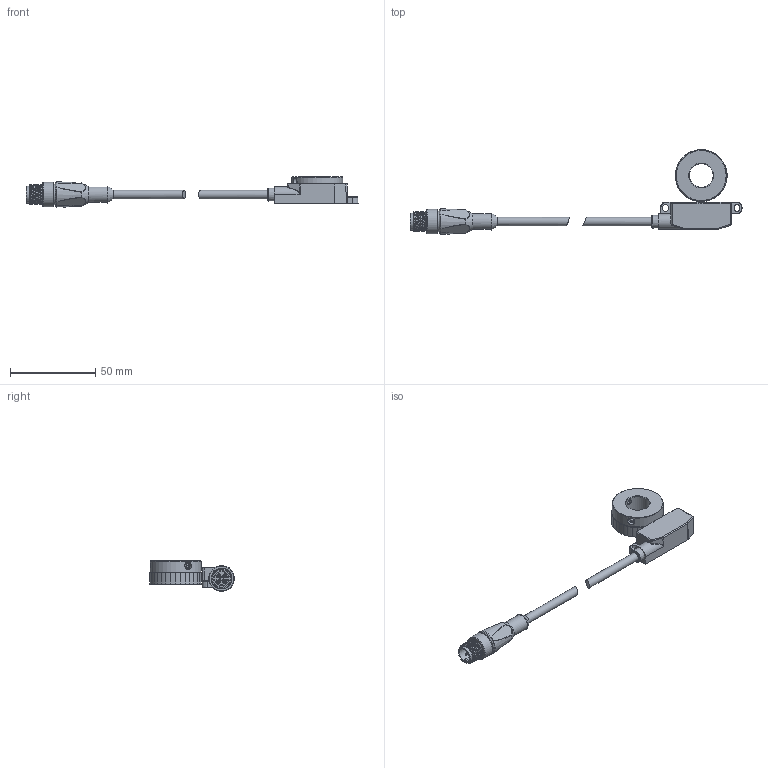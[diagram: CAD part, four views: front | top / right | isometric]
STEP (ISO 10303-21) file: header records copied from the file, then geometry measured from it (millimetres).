
FILE_DESCRIPTION(/* description */ ('CAx-IF Rec.Pracs.---Representation and Presentation of Product Manufacturing Information (PMI)---4.0---2014-10-13','CAx-IF Rec.Pracs.---3D Tessellated Geometry---0.4---2014-09-14','2;1'),/* implementation_level */ '2;1');
FILE_NAME(/* name */ 'PUB-EB200E IR-FN 8L2G_EBS S D31',/* time_stamp */ '2025-02-04T10:28:55+01:00',/* author */ (''),/* organization */ ('Baumer'),/* preprocessor_version */ 'ST-DEVELOPER v19.4',/* originating_system */ 'Solid Edge',/* authorisation */ 'Unknown');
FILE_SCHEMA (('AP242_MANAGED_MODEL_BASED_3D_ENGINEERING_MIM_LF { 1 0 10303 442 1 1 4 }'));
Length unit declared in the file: millimetre
Products named in the file (10): EB200E IR-FN 8L2G_EBS S D31; D0001019906-Gehäuse EB200E; D0001009984-EBS.R-FN032.S014.A14.P0031; D0001009868-Nabe ﾘ 14; 11117261; Ringmagnet_11117261; Hülse_11117261; D0001001874-Gwd-Sti-I6kt M4.0x 5 D916 vzk12.9_11074097; D0001028251-Kabel A1788-CP-T0088; D0001011939-EBS.R-FN032.B022.NOA.P0031
Assembly tree (10 placements, depth 4):
  EB200E IR-FN 8L2G_EBS S D31
    D0001019906-Gehäuse EB200E
    D0001009984-EBS.R-FN032.S014.A14.P0031
      D0001009868-Nabe ﾘ 14
      11117261
        Ringmagnet_11117261
        Hülse_11117261
      D0001001874-Gwd-Sti-I6kt M4.0x 5 D916 vzk12.9_11074097  x2
    D0001028251-Kabel A1788-CP-T0088
    D0001011939-EBS.R-FN032.B022.NOA.P0031
Bounding box: 195.29 x 49.83 x 18.08 mm (x, y, z)
Volume: 24899.6 mm3; surface area: 15448.6 mm2
Topology: 9 solids, 9 shells, 449 faces, 993 edges, 569 vertices
Faces by surface type: plane 179, cylinder 137, bspline 47, cone 41, torus 24, sphere 21
Full cylindrical faces by diameter (mm): 0.66 x4, 1 x4, 2 x5, 3.242 x2, 4 x2, 4.38 x1, 4.5 x2, 5 x2, 8.5 x1, 9.3 x1, 10 x1, 12 x1, 14 x1, 14.6 x1, 18.95 x1, 19.15 x1, 20 x2, 21.6 x4, 22 x6, 30 x1, 30.5 x1
Entity records: 16791 total; most frequent: CARTESIAN_POINT 5524, DIRECTION 1866, ORIENTED_EDGE 1638, EDGE_CURVE 819, AXIS2_PLACEMENT_3D 798, FACE_BOUND 572, EDGE_LOOP 570, VERTEX_POINT 517
